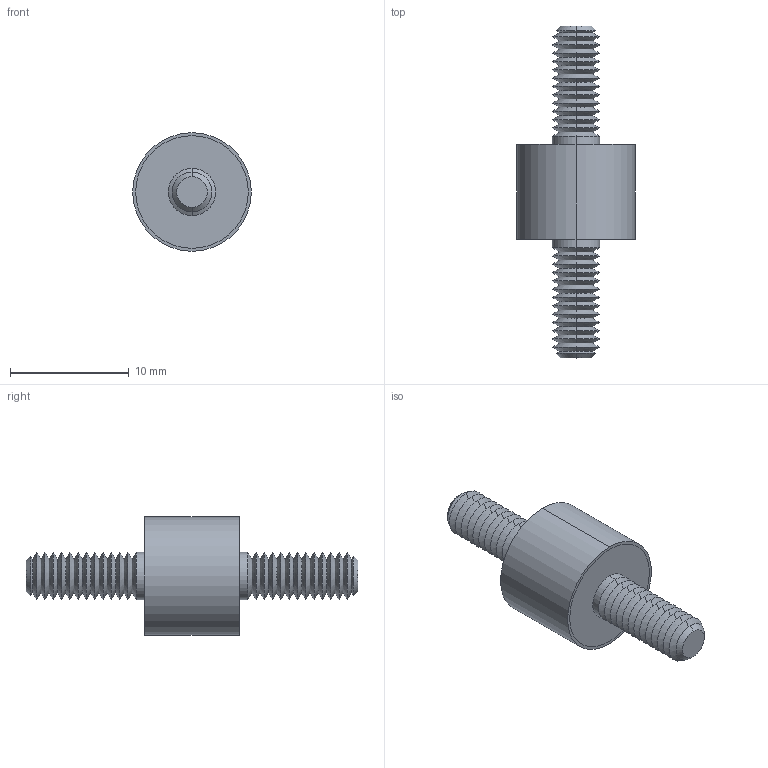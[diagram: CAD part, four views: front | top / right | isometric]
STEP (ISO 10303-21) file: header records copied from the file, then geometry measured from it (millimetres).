
FILE_DESCRIPTION (( 'STEP AP203' ), '1' );
FILE_NAME ('61040.W0101.step', '2019-09-24T22:23:05', ( '' ), ( '' ), 'SwSTEP 2.0', 'SolidWorks 2017', '' );
FILE_SCHEMA (( 'CONFIG_CONTROL_DESIGN' ));
Length unit declared in the file: millimetre
Products named in the file (4): 61040.W0101; Part2_61040.W0101; Part3_61040.W0101; Part1_61040.W0101
Assembly tree (3 placements, depth 2):
  61040.W0101
    Part1_61040.W0101
    Part2_61040.W0101
    Part3_61040.W0101
Bounding box: 10 x 28 x 10 mm (x, y, z)
Volume: 813.8 mm3; surface area: 1144.5 mm2
Topology: 3 solids, 3 shells, 132 faces, 258 edges, 136 vertices
Faces by surface type: cone 108, cylinder 14, plane 10
Entity records: 3708 total; most frequent: DIRECTION 670, CARTESIAN_POINT 532, ORIENTED_EDGE 516, AXIS2_PLACEMENT_3D 274, EDGE_CURVE 258, VERTEX_POINT 136, EDGE_LOOP 136, CIRCLE 136
